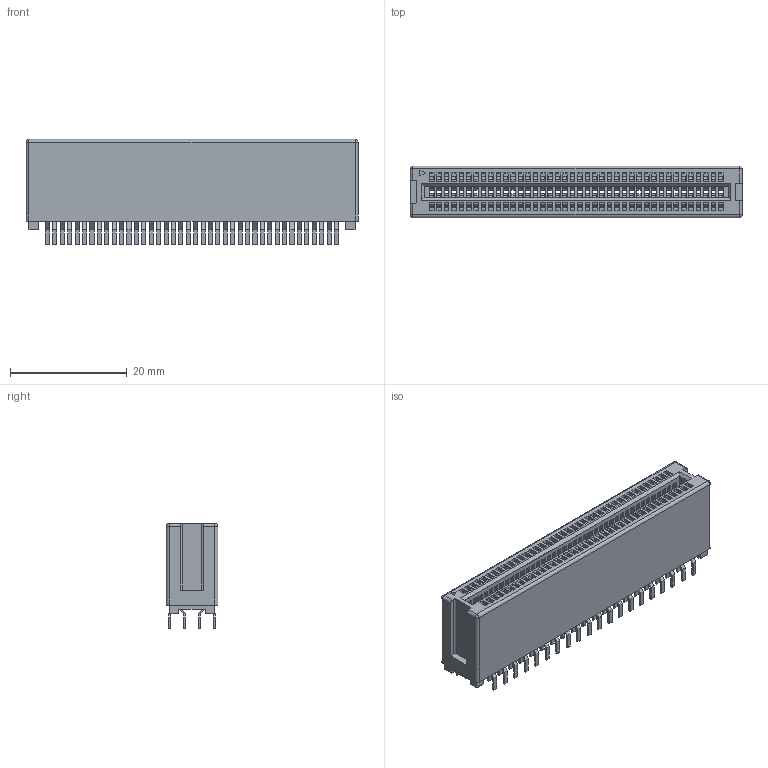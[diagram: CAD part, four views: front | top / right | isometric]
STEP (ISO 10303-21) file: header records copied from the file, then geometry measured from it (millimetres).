
/*
Copyright (C) 2017, Ray Benitez
This program is free software: you can redistribute it and/or modify
it under the terms of the GNU General Public License as published by
the Free Software Foundation, either version 3 of the License, or
any later version.
This program is distributed in the hope that it will be useful,
but WITHOUT ANY WARRANTY; without even the implied warranty of
MERCHANTABILITY or FITNESS FOR A PARTICULAR PURPOSE. See the
GNU General Public License for more details.
You should have received a copy of the GNU General Public License
along with this program. If not, see http://www.gnu.org/licenses/.
As a special exception, if you create a design which uses this symbol,
and embed this symbol or unaltered portions of this symbol into the design,
this symbol does not by itself cause the resulting design to be covered by
the GNU General Public License.
This exception does not however invalidate any other reasons why the design
itself might be covered by the GNU General Public License.
If you modify this symbol, you may extend this exception to your version of the symbol,
but you are not obligated to do so.
If you do not wish to do so, delete this exception statement from your version
Risk disclaimer
*/
FILE_DESCRIPTION(/* description */ ('model of 4UCON_17809_02x40x1.27mm_Vertical'),/* implementation_level */ '2;1');
FILE_NAME(/* name */ '4UCON_17809_02x40x1.27mm_Vertical.step',/* time_stamp */ '2017-04-15T16:54:05',/* author */ ('Ray Benitez','hackscribble@outlook.com'),/* organization */ (''),/* preprocessor_version */ '',/* originating_system */ '',/* authorisation */ '');
FILE_SCHEMA(('AUTOMOTIVE_DESIGN_CC2 { 1 2 10303 214 -1 1 5 4 }'));
Length unit declared in the file: millimetre
Products named in the file (2): ASSEMBLY; ucon_17809_02x40_1_27mm
Assembly tree (1 placements, depth 2):
  ASSEMBLY
    ucon_17809_02x40_1_27mm
Bounding box: 56.9 x 8.88 x 18.04 mm (x, y, z)
Volume: 4533.2 mm3; surface area: 11962.3 mm2
Topology: 41 solids, 41 shells, 3522 faces, 10260 edges, 6700 vertices
Faces by surface type: plane 2542, cylinder 972, sphere 4, bspline 4
Entity records: 141259 total; most frequent: CARTESIAN_POINT 20996, ORIENTED_EDGE 20512, DIRECTION 19671, EDGE_CURVE 10256, LINE 7863, VECTOR 7863, VERTEX_POINT 6700, AXIS2_PLACEMENT_3D 5904
